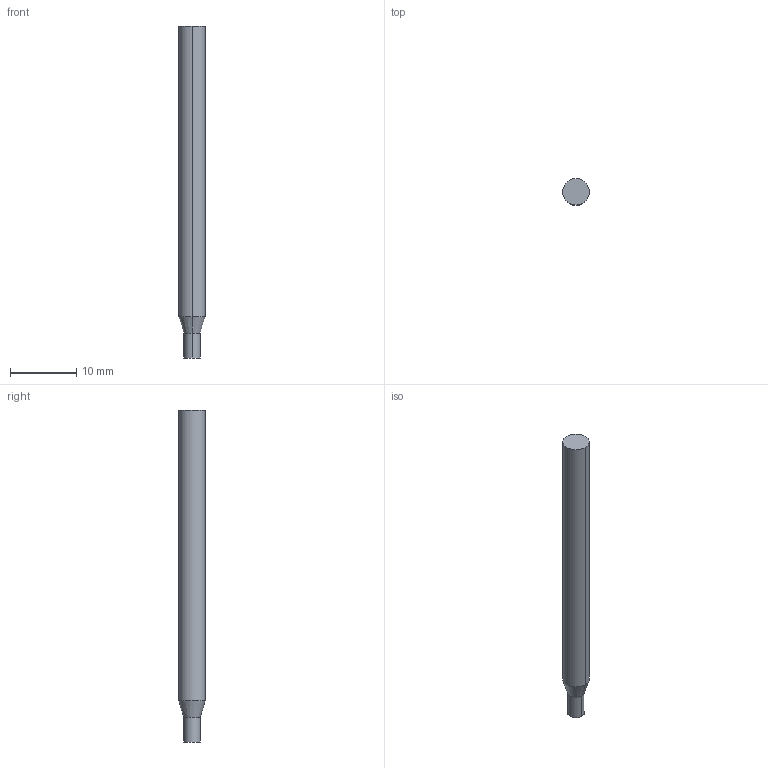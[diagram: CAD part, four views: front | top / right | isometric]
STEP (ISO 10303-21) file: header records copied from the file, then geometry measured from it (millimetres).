
FILE_DESCRIPTION((' '),'2;1');
FILE_NAME( '3MVSM0250AH.stp', '2026-01-21T19:27:54', (' '), ('--- Datakit www.datakit.com---'), ' Datakit CrossCadWare V2025.4 Sep 19 2025', 'Mastercam 2027', ' ');
FILE_SCHEMA(('AUTOMOTIVE_DESIGN { 1 0 10303 214 1 1 1 1 }'));
Length unit declared in the file: inch
Products named in the file (1): 3MVSM0250AH
Bounding box: 4 x 4 x 50 mm (x, y, z)
Volume: 589.6 mm3; surface area: 623.5 mm2
Topology: 1 solids, 1 shells, 8 faces, 14 edges, 8 vertices
Faces by surface type: cylinder 4, plane 2, cone 2
Entity records: 264 total; most frequent: DIRECTION 48, CARTESIAN_POINT 35, ORIENTED_EDGE 28, AXIS2_PLACEMENT_3D 21, EDGE_CURVE 14, VERTEX_POINT 8, CIRCLE 8, EDGE_LOOP 8
